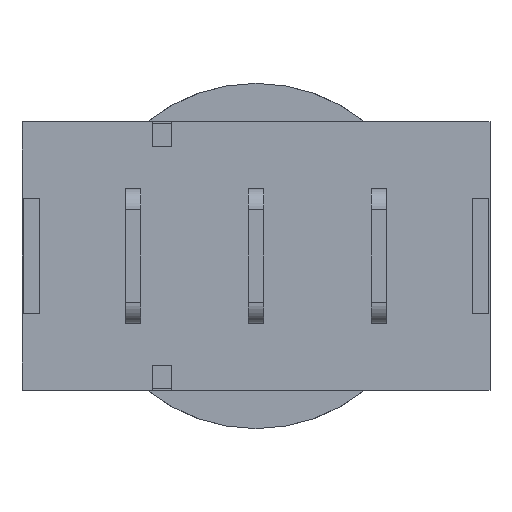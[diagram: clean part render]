
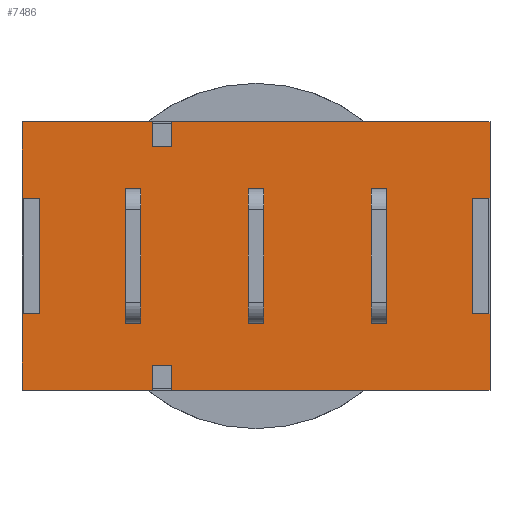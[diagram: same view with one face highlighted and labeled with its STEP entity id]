
A CAD part, front view. The second image highlights one B-rep face of the part: STEP entity #7486.
In plain terms, the highlighted planar face has unit normal (0, -1, 0).
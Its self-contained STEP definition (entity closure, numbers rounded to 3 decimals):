
#39=FACE_BOUND('',#957,.T.);
#40=FACE_BOUND('',#958,.T.);
#41=FACE_BOUND('',#959,.T.);
#557=FACE_OUTER_BOUND('',#956,.T.);
#956=EDGE_LOOP('',(#6595,#6596,#6597,#6598,#6599,#6600,#6601,#6602,#6603,
#6604,#6605,#6606,#6607,#6608,#6609,#6610,#6611,#6612,#6613,#6614));
#957=EDGE_LOOP('',(#6615,#6616,#6617,#6618));
#958=EDGE_LOOP('',(#6619,#6620,#6621,#6622));
#959=EDGE_LOOP('',(#6623,#6624,#6625,#6626));
#994=LINE('',#10099,#1935);
#1003=LINE('',#10126,#1944);
#1012=LINE('',#10153,#1953);
#1822=LINE('',#11988,#2763);
#1825=LINE('',#11994,#2766);
#1836=LINE('',#12016,#2777);
#1858=LINE('',#12058,#2799);
#1868=LINE('',#12076,#2809);
#1870=LINE('',#12080,#2811);
#1871=LINE('',#12083,#2812);
#1875=LINE('',#12090,#2816);
#1878=LINE('',#12096,#2819);
#1881=LINE('',#12101,#2822);
#1883=LINE('',#12106,#2824);
#1886=LINE('',#12112,#2827);
#1889=LINE('',#12117,#2830);
#1891=LINE('',#12122,#2832);
#1893=LINE('',#12126,#2834);
#1895=LINE('',#12129,#2836);
#1896=LINE('',#12133,#2837);
#1899=LINE('',#12138,#2840);
#1901=LINE('',#12141,#2842);
#1902=LINE('',#12143,#2843);
#1903=LINE('',#12146,#2844);
#1904=LINE('',#12148,#2845);
#1905=LINE('',#12149,#2846);
#1906=LINE('',#12152,#2847);
#1907=LINE('',#12153,#2848);
#1908=LINE('',#12154,#2849);
#1909=LINE('',#12156,#2850);
#1910=LINE('',#12158,#2851);
#1911=LINE('',#12159,#2852);
#1935=VECTOR('',#8106,10.);
#1944=VECTOR('',#8131,10.);
#1953=VECTOR('',#8156,10.);
#2763=VECTOR('',#9850,10.);
#2766=VECTOR('',#9855,10.);
#2777=VECTOR('',#9872,10.);
#2799=VECTOR('',#9906,10.);
#2809=VECTOR('',#9924,10.);
#2811=VECTOR('',#9928,10.);
#2812=VECTOR('',#9931,10.);
#2816=VECTOR('',#9939,10.);
#2819=VECTOR('',#9944,10.);
#2822=VECTOR('',#9949,10.);
#2824=VECTOR('',#9955,10.);
#2827=VECTOR('',#9960,10.);
#2830=VECTOR('',#9965,10.);
#2832=VECTOR('',#9971,10.);
#2834=VECTOR('',#9975,10.);
#2836=VECTOR('',#9979,10.);
#2837=VECTOR('',#9982,10.);
#2840=VECTOR('',#9987,10.);
#2842=VECTOR('',#9991,10.);
#2843=VECTOR('',#9994,10.);
#2844=VECTOR('',#9997,10.);
#2845=VECTOR('',#9998,10.);
#2846=VECTOR('',#9999,10.);
#2847=VECTOR('',#10000,10.);
#2848=VECTOR('',#10001,10.);
#2849=VECTOR('',#10002,10.);
#2850=VECTOR('',#10003,10.);
#2851=VECTOR('',#10004,10.);
#2852=VECTOR('',#10005,10.);
#2880=VERTEX_POINT('',#10096);
#2881=VERTEX_POINT('',#10098);
#2890=VERTEX_POINT('',#10123);
#2891=VERTEX_POINT('',#10125);
#2900=VERTEX_POINT('',#10150);
#2901=VERTEX_POINT('',#10152);
#3456=VERTEX_POINT('',#11985);
#3457=VERTEX_POINT('',#11987);
#3458=VERTEX_POINT('',#11991);
#3459=VERTEX_POINT('',#11993);
#3466=VERTEX_POINT('',#12013);
#3467=VERTEX_POINT('',#12015);
#3480=VERTEX_POINT('',#12055);
#3481=VERTEX_POINT('',#12057);
#3485=VERTEX_POINT('',#12074);
#3486=VERTEX_POINT('',#12078);
#3487=VERTEX_POINT('',#12082);
#3488=VERTEX_POINT('',#12089);
#3490=VERTEX_POINT('',#12095);
#3492=VERTEX_POINT('',#12105);
#3494=VERTEX_POINT('',#12111);
#3496=VERTEX_POINT('',#12121);
#3497=VERTEX_POINT('',#12125);
#3498=VERTEX_POINT('',#12131);
#3499=VERTEX_POINT('',#12132);
#3500=VERTEX_POINT('',#12137);
#3501=VERTEX_POINT('',#12145);
#3502=VERTEX_POINT('',#12147);
#3503=VERTEX_POINT('',#12150);
#3504=VERTEX_POINT('',#12151);
#3505=VERTEX_POINT('',#12155);
#3506=VERTEX_POINT('',#12157);
#3535=EDGE_CURVE('',#2881,#2880,#994,.T.);
#3548=EDGE_CURVE('',#2891,#2890,#1003,.T.);
#3561=EDGE_CURVE('',#2901,#2900,#1012,.T.);
#4487=EDGE_CURVE('',#3456,#3457,#1822,.T.);
#4490=EDGE_CURVE('',#3458,#3459,#1825,.T.);
#4501=EDGE_CURVE('',#3467,#3466,#1836,.T.);
#4523=EDGE_CURVE('',#3481,#3480,#1858,.T.);
#4533=EDGE_CURVE('',#3466,#3485,#1868,.T.);
#4535=EDGE_CURVE('',#3486,#3480,#1870,.T.);
#4536=EDGE_CURVE('',#3457,#3487,#1871,.T.);
#4540=EDGE_CURVE('',#3488,#3487,#1875,.T.);
#4543=EDGE_CURVE('',#3490,#3488,#1878,.T.);
#4546=EDGE_CURVE('',#3486,#3490,#1881,.T.);
#4548=EDGE_CURVE('',#3456,#3492,#1883,.T.);
#4551=EDGE_CURVE('',#3494,#3459,#1886,.T.);
#4554=EDGE_CURVE('',#3492,#3494,#1889,.T.);
#4556=EDGE_CURVE('',#3496,#3481,#1891,.T.);
#4558=EDGE_CURVE('',#3497,#3496,#1893,.T.);
#4560=EDGE_CURVE('',#3485,#3497,#1895,.T.);
#4561=EDGE_CURVE('',#3498,#3499,#1896,.T.);
#4564=EDGE_CURVE('',#3500,#3498,#1899,.T.);
#4566=EDGE_CURVE('',#3499,#3467,#1901,.T.);
#4567=EDGE_CURVE('',#3458,#3500,#1902,.T.);
#4568=EDGE_CURVE('',#2900,#3501,#1903,.T.);
#4569=EDGE_CURVE('',#3501,#3502,#1904,.T.);
#4570=EDGE_CURVE('',#3502,#2901,#1905,.T.);
#4571=EDGE_CURVE('',#3503,#3504,#1906,.T.);
#4572=EDGE_CURVE('',#3504,#2891,#1907,.T.);
#4573=EDGE_CURVE('',#2890,#3503,#1908,.T.);
#4574=EDGE_CURVE('',#2880,#3505,#1909,.T.);
#4575=EDGE_CURVE('',#3505,#3506,#1910,.T.);
#4576=EDGE_CURVE('',#3506,#2881,#1911,.T.);
#6595=ORIENTED_EDGE('',*,*,#4546,.T.);
#6596=ORIENTED_EDGE('',*,*,#4543,.T.);
#6597=ORIENTED_EDGE('',*,*,#4540,.T.);
#6598=ORIENTED_EDGE('',*,*,#4536,.F.);
#6599=ORIENTED_EDGE('',*,*,#4487,.F.);
#6600=ORIENTED_EDGE('',*,*,#4548,.T.);
#6601=ORIENTED_EDGE('',*,*,#4554,.T.);
#6602=ORIENTED_EDGE('',*,*,#4551,.T.);
#6603=ORIENTED_EDGE('',*,*,#4490,.F.);
#6604=ORIENTED_EDGE('',*,*,#4567,.T.);
#6605=ORIENTED_EDGE('',*,*,#4564,.T.);
#6606=ORIENTED_EDGE('',*,*,#4561,.T.);
#6607=ORIENTED_EDGE('',*,*,#4566,.T.);
#6608=ORIENTED_EDGE('',*,*,#4501,.T.);
#6609=ORIENTED_EDGE('',*,*,#4533,.T.);
#6610=ORIENTED_EDGE('',*,*,#4560,.T.);
#6611=ORIENTED_EDGE('',*,*,#4558,.T.);
#6612=ORIENTED_EDGE('',*,*,#4556,.T.);
#6613=ORIENTED_EDGE('',*,*,#4523,.T.);
#6614=ORIENTED_EDGE('',*,*,#4535,.F.);
#6615=ORIENTED_EDGE('',*,*,#3561,.T.);
#6616=ORIENTED_EDGE('',*,*,#4568,.T.);
#6617=ORIENTED_EDGE('',*,*,#4569,.T.);
#6618=ORIENTED_EDGE('',*,*,#4570,.T.);
#6619=ORIENTED_EDGE('',*,*,#4571,.T.);
#6620=ORIENTED_EDGE('',*,*,#4572,.T.);
#6621=ORIENTED_EDGE('',*,*,#3548,.T.);
#6622=ORIENTED_EDGE('',*,*,#4573,.T.);
#6623=ORIENTED_EDGE('',*,*,#3535,.T.);
#6624=ORIENTED_EDGE('',*,*,#4574,.T.);
#6625=ORIENTED_EDGE('',*,*,#4575,.T.);
#6626=ORIENTED_EDGE('',*,*,#4576,.T.);
#7096=PLANE('',#8033);
#7486=ADVANCED_FACE('',(#557,#39,#40,#41),#7096,.T.);
#8033=AXIS2_PLACEMENT_3D('',#12144,#9995,#9996);
#8106=DIRECTION('',(0.,0.,1.));
#8131=DIRECTION('',(0.,0.,1.));
#8156=DIRECTION('',(0.,0.,1.));
#9850=DIRECTION('',(0.,0.,1.));
#9855=DIRECTION('',(0.,0.,1.));
#9872=DIRECTION('',(1.,0.,0.));
#9906=DIRECTION('',(0.,0.,1.));
#9924=DIRECTION('',(0.,0.,1.));
#9928=DIRECTION('',(1.,0.,0.));
#9931=DIRECTION('',(1.,0.,0.));
#9939=DIRECTION('',(0.,0.,1.));
#9944=DIRECTION('',(-1.,0.,0.));
#9949=DIRECTION('',(0.,0.,-1.));
#9955=DIRECTION('',(1.,0.,0.));
#9960=DIRECTION('',(-1.,0.,0.));
#9965=DIRECTION('',(0.,0.,-1.));
#9971=DIRECTION('',(1.,0.,0.));
#9975=DIRECTION('',(0.,0.,1.));
#9979=DIRECTION('',(-1.,0.,0.));
#9982=DIRECTION('',(1.,0.,0.));
#9987=DIRECTION('',(0.,0.,1.));
#9991=DIRECTION('',(0.,0.,-1.));
#9994=DIRECTION('',(1.,0.,0.));
#9995=DIRECTION('center_axis',(0.,-1.,0.));
#9996=DIRECTION('ref_axis',(1.,0.,0.));
#9997=DIRECTION('',(1.,0.,0.));
#9998=DIRECTION('',(0.,0.,-1.));
#9999=DIRECTION('',(-1.,0.,0.));
#10000=DIRECTION('',(0.,0.,-1.));
#10001=DIRECTION('',(-1.,0.,0.));
#10002=DIRECTION('',(1.,0.,0.));
#10003=DIRECTION('',(1.,0.,0.));
#10004=DIRECTION('',(0.,0.,-1.));
#10005=DIRECTION('',(-1.,0.,0.));
#10096=CARTESIAN_POINT('',(18.2,0.,10.5));
#10098=CARTESIAN_POINT('',(18.2,0.,3.5));
#10099=CARTESIAN_POINT('',(18.2,0.,5.25));
#10123=CARTESIAN_POINT('',(11.8,0.,10.5));
#10125=CARTESIAN_POINT('',(11.8,0.,3.5));
#10126=CARTESIAN_POINT('',(11.8,0.,5.25));
#10150=CARTESIAN_POINT('',(5.4,0.,10.5));
#10152=CARTESIAN_POINT('',(5.4,0.,3.5));
#10153=CARTESIAN_POINT('',(5.4,0.,5.25));
#11985=CARTESIAN_POINT('',(0.,0.,10.));
#11987=CARTESIAN_POINT('',(0.,0.,14.));
#11988=CARTESIAN_POINT('',(0.,0.,0.));
#11991=CARTESIAN_POINT('',(0.,0.,0.));
#11993=CARTESIAN_POINT('',(0.,0.,4.));
#11994=CARTESIAN_POINT('',(0.,0.,0.));
#12013=CARTESIAN_POINT('',(24.4,0.,0.));
#12015=CARTESIAN_POINT('',(7.8,0.,0.));
#12016=CARTESIAN_POINT('',(0.,0.,0.));
#12055=CARTESIAN_POINT('',(24.4,0.,14.));
#12057=CARTESIAN_POINT('',(24.4,0.,10.));
#12058=CARTESIAN_POINT('',(24.4,0.,0.));
#12074=CARTESIAN_POINT('',(24.4,0.,4.));
#12076=CARTESIAN_POINT('',(24.4,0.,0.));
#12078=CARTESIAN_POINT('',(7.8,0.,14.));
#12080=CARTESIAN_POINT('',(0.,0.,14.));
#12082=CARTESIAN_POINT('',(6.8,0.,14.));
#12083=CARTESIAN_POINT('',(0.,0.,14.));
#12089=CARTESIAN_POINT('',(6.8,0.,12.7));
#12090=CARTESIAN_POINT('',(6.8,0.,6.35));
#12095=CARTESIAN_POINT('',(7.8,0.,12.7));
#12096=CARTESIAN_POINT('',(3.9,0.,12.7));
#12101=CARTESIAN_POINT('',(7.8,0.,7.));
#12105=CARTESIAN_POINT('',(0.9,0.,10.));
#12106=CARTESIAN_POINT('',(0.,0.,10.));
#12111=CARTESIAN_POINT('',(0.9,0.,4.));
#12112=CARTESIAN_POINT('',(0.45,0.,4.));
#12117=CARTESIAN_POINT('',(0.9,0.,5.));
#12121=CARTESIAN_POINT('',(23.5,0.,10.));
#12122=CARTESIAN_POINT('',(11.75,0.,10.));
#12125=CARTESIAN_POINT('',(23.5,0.,4.));
#12126=CARTESIAN_POINT('',(23.5,0.,2.));
#12129=CARTESIAN_POINT('',(12.2,0.,4.));
#12131=CARTESIAN_POINT('',(6.8,0.,1.3));
#12132=CARTESIAN_POINT('',(7.8,0.,1.3));
#12133=CARTESIAN_POINT('',(3.4,0.,1.3));
#12137=CARTESIAN_POINT('',(6.8,0.,0.));
#12138=CARTESIAN_POINT('',(6.8,0.,0.));
#12141=CARTESIAN_POINT('',(7.8,0.,0.65));
#12143=CARTESIAN_POINT('',(0.,0.,0.));
#12144=CARTESIAN_POINT('Origin',(0.,0.,0.));
#12145=CARTESIAN_POINT('',(6.2,0.,10.5));
#12146=CARTESIAN_POINT('',(3.1,0.,10.5));
#12147=CARTESIAN_POINT('',(6.2,0.,3.5));
#12148=CARTESIAN_POINT('',(6.2,0.,1.75));
#12149=CARTESIAN_POINT('',(2.7,0.,3.5));
#12150=CARTESIAN_POINT('',(12.6,0.,10.5));
#12151=CARTESIAN_POINT('',(12.6,0.,3.5));
#12152=CARTESIAN_POINT('',(12.6,0.,1.75));
#12153=CARTESIAN_POINT('',(5.9,0.,3.5));
#12154=CARTESIAN_POINT('',(6.3,0.,10.5));
#12155=CARTESIAN_POINT('',(19.,0.,10.5));
#12156=CARTESIAN_POINT('',(9.5,0.,10.5));
#12157=CARTESIAN_POINT('',(19.,0.,3.5));
#12158=CARTESIAN_POINT('',(19.,0.,1.75));
#12159=CARTESIAN_POINT('',(9.1,0.,3.5));
